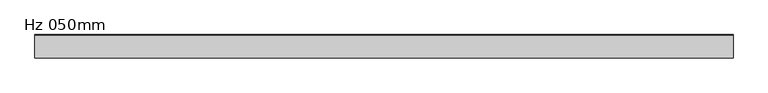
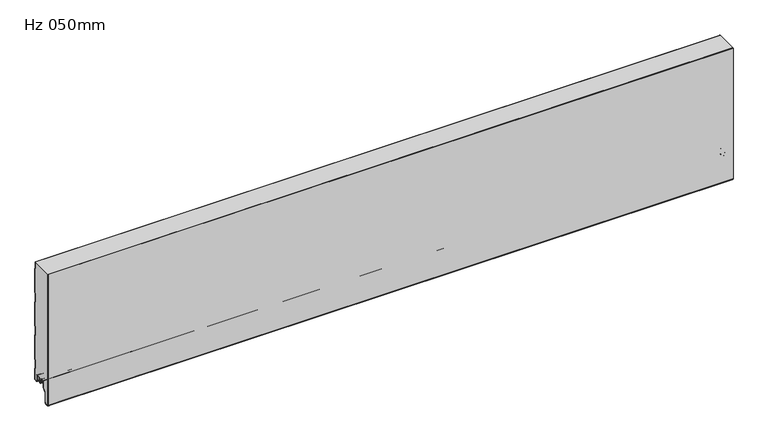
"""IFC4 building model written with IfcOpenShell, lengths in millimetres: plate geometry, KIP-MEX-KSS-1067-R19-CP-Hz-OP_SL : Hz 050mm."""

from ifc_helpers import new_model, si_unit, point, frame, frame_2d, origin, place, context, project, spatial, polyline, circle_curve, trimmed, segment, composite_curve, outline, extrude, source, transform, mapped, element, save
from ifc_brep_helpers import plane_surface, cylinder_surface, revolved_surface, advanced_brep


def hz_050mm_dce8ea4b(model_context):
    return source(origin(), model_context, "Body", "SolidModel", [
        advanced_brep(
        [(-740.0, -21.670875, 1.0316999), (-740.0, -20.5014003, 2.2328239), (-740.0, -20.5014003, 5.9912173), (-740.0, -21.8998791, 5.9912173), (-740.0, -21.8998791, 8.6903283), (-740.0, -25.2498744, 12.0403236), (-740.0, -29.6498656, 12.0403236), (-740.0, -32.9998609, 8.6903283), (-740.0, -32.9998609, -3.1205608), (-740.0, -33.4977778, -4.3226385), (-740.0, -38.9998489, -9.8247096), (-740.0, -38.9998489, -31.9198392), (-740.0, -41.2184509, -34.5765709), (-740.0, -46.2002718, -35.0125699), (-740.0, -48.9945967, -32.4521176), (-740.0, -49.0, 266.0), (-740.0, -2.2002391, 266.0), (-740.0, -2.2002391, 251.0192115), (-740.0, -1.0000084, 249.6335785), (-740.0, -1.0000084, 195.5801631), (-740.0, -2.2002391, 194.1945302), (-740.0, -2.2002391, 174.8193639), (-740.0, -1.0000084, 173.4337309), (-740.0, -1.0000084, 119.3803155), (-740.0, -2.2002391, 117.9946826), (-740.0, -2.2002391, 98.6195163), (-740.0, -1.0000084, 97.2338833), (-740.0, -1.0000084, 43.1804679), (-740.0, -2.2002391, 41.794835), (-740.0, -2.2002391, 22.4196687), (-740.0, -1.0, 21.034026), (-740.0, -1.0, -3.4662506), (-740.0, -5.2315473, -3.4662506), (-740.0, -7.0015415, -1.6962564), (-740.0, -7.0015415, 8.7237222), (-740.0, -10.3015374, 12.023718), (-740.0, -14.7015286, 12.023718), (-740.0, -18.0015243, 8.7237223), (-740.0, -18.0015243, 6.0315125), (-740.0, -19.0015188, 6.0315125), (-740.0, -19.0015188, 2.0313089), (-740.0, -18.0015275, 1.0313117), (-740.0, -19.0328392, 0.0), (-740.0, -20.6391751, 0.0), (740.0, -21.670875, 1.0316999), (740.0, -20.6391751, 0.0), (740.0, -19.0328392, 0.0), (740.0, -18.0015275, 1.0313117), (740.0, -19.0015188, 2.0313089), (740.0, -19.0015188, 6.0315125), (740.0, -18.0015243, 6.0315125), (740.0, -18.0015243, 8.7237223), (740.0, -14.7015286, 12.023718), (740.0, -10.3015374, 12.023718), (740.0, -7.0015415, 8.7237222), (740.0, -7.0015415, -1.6962564), (740.0, -5.2315473, -3.4662506), (740.0, -1.0, -3.4662506), (740.0, -1.0, 21.034026), (740.0, -2.2002391, 22.4196687), (740.0, -2.2002391, 41.794835), (740.0, -1.0000084, 43.1804679), (740.0, -1.0000084, 97.2338833), (740.0, -2.2002391, 98.6195163), (740.0, -2.2002391, 117.9946826), (740.0, -1.0000084, 119.3803155), (740.0, -1.0000084, 173.4337309), (740.0, -2.2002391, 174.8193639), (740.0, -2.2002391, 194.1945302), (740.0, -1.0000084, 195.5801631), (740.0, -1.0000084, 249.6335785), (740.0, -2.2002391, 251.0192115), (740.0, -2.2002391, 266.0), (740.0, -49.0, 266.0), (740.0, -49.0, -32.4521176), (740.0, -46.2002718, -35.0125699), (740.0, -41.2184509, -34.5765709), (740.0, -38.9998489, -31.9198392), (740.0, -38.9998489, -9.8247096), (740.0, -33.4977778, -4.3226385), (740.0, -32.9998609, -3.1205608), (740.0, -32.9998609, 8.6903283), (740.0, -29.6498656, 12.0403236), (740.0, -25.2498744, 12.0403236), (740.0, -21.8998791, 8.6903283), (740.0, -21.8998791, 5.9912173), (740.0, -20.5014003, 5.9912173), (740.0, -20.5014003, 2.2328239)],
        [
            (0, 1, circle_curve(frame((-740.0, -21.7013969, 2.2313092), z_axis=(1.0, 0.0, 0.0), x_axis=(0.0, 0.0, -1.0)), 1.1999976)),
            (1, 2),
            (2, 3),
            (3, 4),
            (4, 5, circle_curve(frame((-740.0, -25.2498744, 8.6903283), z_axis=(1.0, 0.0, 0.0), x_axis=(0.0, 0.0, -1.0)), 3.3499953)),
            (5, 6),
            (6, 7, circle_curve(frame((-740.0, -29.6498656, 8.6903283), z_axis=(1.0, 0.0, 0.0), x_axis=(0.0, 0.0, -1.0)), 3.3499953)),
            (7, 8),
            (8, 9, circle_curve(frame((-740.0, -34.6998555, -3.1205608), z_axis=(-1.0, 0.0, 0.0), x_axis=(0.0, 0.0, -1.0)), 1.6999946)),
            (9, 10),
            (10, 11),
            (11, 12, circle_curve(frame((-740.0, -41.6998415, -31.9198392), z_axis=(-1.0, 0.0, 0.0), x_axis=(0.0, 0.0, -1.0)), 2.6999926)),
            (12, 13),
            (13, 14, circle_curve(frame((-740.0, -46.4243575, -32.4521176), z_axis=(-1.0, 0.0, 0.0), x_axis=(0.0, 0.0, -1.0)), 2.5702393)),
            (14, 15),
            (15, 16),
            (16, 17),
            (17, 18),
            (18, 19),
            (19, 20),
            (20, 21),
            (21, 22),
            (22, 23),
            (23, 24),
            (24, 25),
            (25, 26),
            (26, 27),
            (27, 28),
            (28, 29),
            (29, 30),
            (30, 31),
            (31, 32),
            (32, 33, circle_curve(frame((-740.0, -5.2315473, -1.6962564), z_axis=(-1.0, 0.0, 0.0), x_axis=(0.0, 0.0, -1.0)), 1.7699942)),
            (33, 34),
            (34, 35, circle_curve(frame((-740.0, -10.3015374, 8.7237222), z_axis=(1.0, 0.0, 0.0), x_axis=(0.0, 0.0, -1.0)), 3.2999959)),
            (35, 36),
            (36, 37, circle_curve(frame((-740.0, -14.7015286, 8.7237223), z_axis=(1.0, 0.0, 0.0), x_axis=(0.0, 0.0, -1.0)), 3.2999957)),
            (37, 38),
            (38, 39),
            (39, 40),
            (40, 41, circle_curve(frame((-740.0, -18.0015216, 2.0313089), z_axis=(1.0, 0.0, 0.0), x_axis=(0.0, 0.0, -1.0)), 0.9999972)),
            (41, 42),
            (42, 43),
            (43, 0),
            (44, 45),
            (45, 46),
            (46, 47),
            (47, 48, circle_curve(frame((740.0, -18.0015216, 2.0313089), z_axis=(-1.0, 0.0, 0.0), x_axis=(0.0, 0.0, -1.0)), 0.9999972)),
            (48, 49),
            (49, 50),
            (50, 51),
            (51, 52, circle_curve(frame((740.0, -14.7015286, 8.7237223), z_axis=(-1.0, 0.0, 0.0), x_axis=(0.0, 0.0, -1.0)), 3.2999957)),
            (52, 53),
            (53, 54, circle_curve(frame((740.0, -10.3015374, 8.7237222), z_axis=(-1.0, 0.0, 0.0), x_axis=(0.0, 0.0, -1.0)), 3.2999959)),
            (54, 55),
            (55, 56, circle_curve(frame((740.0, -5.2315473, -1.6962564), z_axis=(1.0, 0.0, 0.0), x_axis=(0.0, 0.0, -1.0)), 1.7699942)),
            (56, 57),
            (57, 58),
            (58, 59),
            (59, 60),
            (60, 61),
            (61, 62),
            (62, 63),
            (63, 64),
            (64, 65),
            (65, 66),
            (66, 67),
            (67, 68),
            (68, 69),
            (69, 70),
            (70, 71),
            (71, 72),
            (72, 73),
            (73, 74),
            (74, 75, circle_curve(frame((740.0, -46.4243575, -32.4521176), z_axis=(1.0, 0.0, 0.0), x_axis=(0.0, 0.0, -1.0)), 2.5702393)),
            (75, 76),
            (76, 77, circle_curve(frame((740.0, -41.6998415, -31.9198392), z_axis=(1.0, 0.0, 0.0), x_axis=(0.0, 0.0, -1.0)), 2.6999926)),
            (77, 78),
            (78, 79),
            (79, 80, circle_curve(frame((740.0, -34.6998555, -3.1205608), z_axis=(1.0, 0.0, 0.0), x_axis=(0.0, 0.0, -1.0)), 1.6999946)),
            (80, 81),
            (81, 82, circle_curve(frame((740.0, -29.6498656, 8.6903283), z_axis=(-1.0, 0.0, 0.0), x_axis=(0.0, 0.0, -1.0)), 3.3499953)),
            (82, 83),
            (83, 84, circle_curve(frame((740.0, -25.2498744, 8.6903283), z_axis=(-1.0, 0.0, 0.0), x_axis=(0.0, 0.0, -1.0)), 3.3499953)),
            (84, 85),
            (85, 86),
            (86, 87),
            (87, 44, circle_curve(frame((740.0, -21.7013969, 2.2313092), z_axis=(-1.0, 0.0, 0.0), x_axis=(0.0, 0.0, -1.0)), 1.1999976)),
            (43, 45),
            (44, 0),
            (42, 46),
            (41, 47),
            (40, 48),
            (39, 49),
            (38, 50),
            (37, 51),
            (36, 52),
            (35, 53),
            (34, 54),
            (33, 55),
            (32, 56),
            (31, 57),
            (4, 84),
            (83, 5),
            (3, 85),
            (2, 86),
            (1, 87),
            (30, 58),
            (29, 59),
            (28, 60),
            (27, 61),
            (26, 62),
            (25, 63),
            (24, 64),
            (23, 65),
            (22, 66),
            (21, 67),
            (20, 68),
            (19, 69),
            (18, 70),
            (17, 71),
            (16, 72),
            (15, 73),
            (14, 74),
            (13, 75),
            (12, 76),
            (11, 77),
            (10, 78),
            (9, 79),
            (8, 80),
            (7, 81),
            (6, 82),
        ],
        [
            plane_surface(frame((-740.0, -49.0, 533.4), z_axis=(-1.0, 0.0, 0.0), x_axis=(0.0, -1.0, 0.0))),
            plane_surface(frame((740.0, -49.0, 533.4), z_axis=(1.0, 0.0, 0.0), x_axis=(0.0, -1.0, 0.0))),
            plane_surface(frame((-740.0, -21.670875, 1.0316999), z_axis=(0.0, -0.7071067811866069, -0.7071067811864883), x_axis=(1.0, 0.0, 0.0))),
            plane_surface(frame((-740.0, -20.6391751, 0.0), z_axis=(0.0, 0.0, -1.0), x_axis=(1.0, 0.0, 0.0))),
            plane_surface(frame((-740.0, -19.0328392, 0.0), z_axis=(0.0, 0.7071067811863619, -0.7071067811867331), x_axis=(1.0, 0.0, 0.0))),
            revolved_surface(polyline([(740.0, -18.0015216, 1.0313116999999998), (-740.0, -18.0015216, 1.0313116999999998)]), (-740.0, -18.0015216, 2.0313089), (1.0, 0.0, 0.0)),
            plane_surface(frame((-740.0, -19.0015188, 2.0313089), z_axis=(0.0, 1.0, 0.0), x_axis=(1.0, 0.0, 0.0))),
            plane_surface(frame((-740.0, -19.0015188, 6.0315125), z_axis=(0.0, 0.0, -1.0), x_axis=(1.0, 0.0, 0.0))),
            plane_surface(frame((-740.0, -18.0015243, 6.0315125), z_axis=(0.0, 1.0, 0.0), x_axis=(1.0, 0.0, 0.0))),
            revolved_surface(polyline([(740.0, -14.7015286, 5.4237266), (-740.0, -14.7015286, 5.4237266)]), (-740.0, -14.7015286, 8.7237223), (1.0, 0.0, 0.0)),
            plane_surface(frame((-740.0, -14.7015286, 12.023718), z_axis=(0.0, 0.0, -1.0), x_axis=(1.0, 0.0, 0.0))),
            revolved_surface(polyline([(740.0, -10.3015374, 5.423726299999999), (-740.0, -10.3015374, 5.423726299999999)]), (-740.0, -10.3015374, 8.7237222), (1.0, 0.0, 0.0)),
            plane_surface(frame((-740.0, -7.0015415, 8.7237222), z_axis=(0.0, -1.0, 0.0), x_axis=(1.0, 0.0, 0.0))),
            cylinder_surface(frame((-740.0, -5.2315473, -1.6962564), z_axis=(-1.0, 0.0, 0.0), x_axis=(0.0, 0.0, -1.0)), 1.7699942),
            plane_surface(frame((-740.0, -5.2315473, -3.4662506), z_axis=(0.0, 0.0, -1.0), x_axis=(1.0, 0.0, 0.0))),
            revolved_surface(polyline([(740.0, -25.2498744, 5.340332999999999), (-740.0, -25.2498744, 5.340332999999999)]), (-740.0, -25.2498744, 8.6903283), (1.0, 0.0, 0.0)),
            plane_surface(frame((-740.0, -21.8998791, 8.6903283), z_axis=(0.0, -1.0, 0.0), x_axis=(1.0, 0.0, 0.0))),
            plane_surface(frame((-740.0, -21.8998791, 5.9912173), z_axis=(0.0, 0.0, -1.0), x_axis=(1.0, 0.0, 0.0))),
            plane_surface(frame((-740.0, -20.5014003, 5.9912173), z_axis=(0.0, -1.0, 0.0), x_axis=(1.0, 0.0, 0.0))),
            revolved_surface(polyline([(740.0, -21.7013969, 1.0313116), (-740.0, -21.7013969, 1.0313116)]), (-740.0, -21.7013969, 2.2313092), (1.0, 0.0, 0.0)),
            plane_surface(frame((-740.0, -1.0, -3.4662506), z_axis=(0.0, 1.0, 0.0), x_axis=(1.0, 0.0, 0.0))),
            plane_surface(frame((-740.0, -1.0, 21.034026), z_axis=(0.0, 0.7558648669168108, 0.6547276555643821), x_axis=(1.0, 0.0, 0.0))),
            plane_surface(frame((-740.0, -2.2002391, 22.4196687), z_axis=(0.0, 1.0, 0.0), x_axis=(1.0, 0.0, 0.0))),
            plane_surface(frame((-740.0, -2.2002391, 41.794835), z_axis=(0.0, 0.7558648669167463, -0.6547276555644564), x_axis=(1.0, 0.0, 0.0))),
            plane_surface(frame((-740.0, -1.0000084, 43.1804679), z_axis=(0.0, 1.0, 0.0), x_axis=(1.0, 0.0, 0.0))),
            plane_surface(frame((-740.0, -1.0000084, 97.2338833), z_axis=(0.0, 0.7558648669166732, 0.6547276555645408), x_axis=(1.0, 0.0, 0.0))),
            plane_surface(frame((-740.0, -2.2002391, 98.6195163), z_axis=(0.0, 1.0, 0.0), x_axis=(1.0, 0.0, 0.0))),
            plane_surface(frame((-740.0, -2.2002391, 117.9946826), z_axis=(0.0, 0.7558648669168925, -0.6547276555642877), x_axis=(1.0, 0.0, 0.0))),
            plane_surface(frame((-740.0, -1.0000084, 119.3803155), z_axis=(0.0, 1.0, 0.0), x_axis=(1.0, 0.0, 0.0))),
            plane_surface(frame((-740.0, -1.0000084, 173.4337309), z_axis=(0.0, 0.7558648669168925, 0.6547276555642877), x_axis=(1.0, 0.0, 0.0))),
            plane_surface(frame((-740.0, -2.2002391, 174.8193639), z_axis=(0.0, 1.0, 0.0), x_axis=(1.0, 0.0, 0.0))),
            plane_surface(frame((-740.0, -2.2002391, 194.1945302), z_axis=(0.0, 0.7558648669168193, -0.6547276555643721), x_axis=(1.0, 0.0, 0.0))),
            plane_surface(frame((-740.0, -1.0000084, 195.5801631), z_axis=(0.0, 1.0, 0.0), x_axis=(1.0, 0.0, 0.0))),
            plane_surface(frame((-740.0, -1.0000084, 249.6335785), z_axis=(0.0, 0.7558648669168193, 0.6547276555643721), x_axis=(1.0, 0.0, 0.0))),
            plane_surface(frame((-740.0, -2.2002391, 251.0192115), z_axis=(0.0, 1.0, 0.0), x_axis=(1.0, 0.0, 0.0))),
            plane_surface(frame((740.0, 10.0, 266.0), z_axis=(0.0, 0.0, 1.0), x_axis=(-1.0, 0.0, 0.0))),
            plane_surface(frame((-740.0, -49.0, 1024.665622), z_axis=(0.0, -1.0, 0.0), x_axis=(1.0, 0.0, 0.0))),
            cylinder_surface(frame((-740.0, -46.4243575, -32.4521176), z_axis=(-1.0, 0.0, 0.0), x_axis=(0.0, 0.0, -1.0)), 2.5702393),
            plane_surface(frame((-740.0, -46.2002718, -35.0125699), z_axis=(0.0, 0.08718474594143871, -0.9961921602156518), x_axis=(1.0, 0.0, 0.0))),
            cylinder_surface(frame((-740.0, -41.6998415, -31.9198392), z_axis=(-1.0, 0.0, 0.0), x_axis=(0.0, 0.0, -1.0)), 2.6999926),
            plane_surface(frame((-740.0, -38.9998489, -31.9198392), z_axis=(0.0, 1.0, 0.0), x_axis=(1.0, 0.0, 0.0))),
            plane_surface(frame((-740.0, -38.9998489, -9.8247096), z_axis=(0.0, 0.7071067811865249, -0.7071067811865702), x_axis=(1.0, 0.0, 0.0))),
            cylinder_surface(frame((-740.0, -34.6998555, -3.1205608), z_axis=(-1.0, 0.0, 0.0), x_axis=(0.0, 0.0, -1.0)), 1.6999946),
            plane_surface(frame((-740.0, -32.9998609, -3.1205608), z_axis=(0.0, 1.0, 0.0), x_axis=(1.0, 0.0, 0.0))),
            revolved_surface(polyline([(740.0, -29.6498656, 5.340332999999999), (-740.0, -29.6498656, 5.340332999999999)]), (-740.0, -29.6498656, 8.6903283), (1.0, 0.0, 0.0)),
            plane_surface(frame((-740.0, -29.6498656, 12.0403236), z_axis=(0.0, 0.0, -1.0), x_axis=(1.0, 0.0, 0.0))),
        ],
        [
            (0, [[1, 2, 3, 4, 5, 6, 7, 8, 9, 10, 11, 12, 13, 14, 15, 16, 17, 18, 19, 20, 21, 22, 23, 24, 25, 26, 27, 28, 29, 30, 31, 32, 33, 34, 35, 36, 37, 38, 39, 40, 41, 42, 43, 44]]),
            (1, [[45, 46, 47, 48, 49, 50, 51, 52, 53, 54, 55, 56, 57, 58, 59, 60, 61, 62, 63, 64, 65, 66, 67, 68, 69, 70, 71, 72, 73, 74, 75, 76, 77, 78, 79, 80, 81, 82, 83, 84, 85, 86, 87, 88]]),
            (2, [[89, -45, 90, -44]]),
            (3, [[91, -46, -89, -43]]),
            (4, [[92, -47, -91, -42]]),
            (5, [[93, -48, -92, -41]]),
            (6, [[94, -49, -93, -40]]),
            (7, [[95, -50, -94, -39]]),
            (8, [[96, -51, -95, -38]]),
            (9, [[97, -52, -96, -37]]),
            (10, [[98, -53, -97, -36]]),
            (11, [[99, -54, -98, -35]]),
            (12, [[100, -55, -99, -34]]),
            (13, [[101, -56, -100, -33]]),
            (14, [[102, -57, -101, -32]]),
            (15, [[103, -84, 104, -5]]),
            (16, [[105, -85, -103, -4]]),
            (17, [[106, -86, -105, -3]]),
            (18, [[107, -87, -106, -2]]),
            (19, [[-90, -88, -107, -1]]),
            (20, [[108, -58, -102, -31]]),
            (21, [[109, -59, -108, -30]]),
            (22, [[110, -60, -109, -29]]),
            (23, [[111, -61, -110, -28]]),
            (24, [[112, -62, -111, -27]]),
            (25, [[113, -63, -112, -26]]),
            (26, [[114, -64, -113, -25]]),
            (27, [[115, -65, -114, -24]]),
            (28, [[116, -66, -115, -23]]),
            (29, [[117, -67, -116, -22]]),
            (30, [[118, -68, -117, -21]]),
            (31, [[119, -69, -118, -20]]),
            (32, [[120, -70, -119, -19]]),
            (33, [[121, -71, -120, -18]]),
            (34, [[-17, 122, -72, -121]]),
            (35, [[123, -73, -122, -16]]),
            (36, [[-74, -123, -15, 124]]),
            (37, [[125, -75, -124, -14]]),
            (38, [[126, -76, -125, -13]]),
            (39, [[127, -77, -126, -12]]),
            (40, [[128, -78, -127, -11]]),
            (41, [[129, -79, -128, -10]]),
            (42, [[130, -80, -129, -9]]),
            (43, [[131, -81, -130, -8]]),
            (44, [[132, -82, -131, -7]]),
            (45, [[-104, -83, -132, -6]]),
        ],
    ),
        advanced_brep(
        [(-740.0, -17.0015159, 2.0313088), (-740.0, -18.0015191, 1.0313116), (-740.0, -19.0015105, 2.0313088), (-740.0, -19.0015105, 6.0315125), (-740.0, -18.0015159, 6.0315125), (-740.0, -18.0015159, 8.7237223), (-740.0, -14.7015202, 12.023718), (-740.0, -10.301529, 12.023718), (-740.0, -7.0015335, 8.7237225), (-740.0, -7.0015335, -1.6962564), (-740.0, -5.2315393, -3.4662506), (-740.0, -0.9999916, -3.4662506), (-740.0, -0.9999916, 21.034026), (-740.0, -2.2002307, 22.4196686), (-740.0, -2.2002307, 41.7948349), (-740.0, -1.0, 43.1804679), (-740.0, -1.0, 97.2338833), (-740.0, -2.2002307, 98.6195162), (-740.0, -2.2002307, 117.9946825), (-740.0, -1.0, 119.3803155), (-740.0, -1.0, 173.4337309), (-740.0, -2.2002307, 174.8193638), (-740.0, -2.2002307, 194.1945301), (-740.0, -1.0, 195.5801631), (-740.0, -1.0, 249.6335785), (-740.0, -2.2002307, 251.0192114), (-740.0, -2.2002307, 266.0), (-740.0, -1.2002307, 266.0), (-740.0, -1.2002307, 251.3920919), (-740.0, -0.3417885, 250.4010442), (-740.0, 0.0, 249.4844273), (-740.0, 0.0, 195.7293142), (-740.0, -0.3417885, 194.8126973), (-740.0, -1.2002307, 193.8216497), (-740.0, -1.2002307, 175.1922443), (-740.0, -0.3417885, 174.2011966), (-740.0, 0.0, 173.2845797), (-740.0, 0.0, 119.5294666), (-740.0, -0.3417885, 118.6128497), (-740.0, -1.2002307, 117.6218021), (-740.0, -1.2002307, 98.9923967), (-740.0, -0.3417885, 98.001349), (-740.0, 0.0, 97.0847321), (-740.0, 0.0, 43.329619), (-740.0, -0.3417885, 42.4130021), (-740.0, -1.2002307, 41.4219545), (-740.0, -1.2002307, 22.7925491), (-740.0, -0.3417885, 21.8015014), (-740.0, 0.0, 20.8847931), (-740.0, 8.4e-06, -3.0662545), (-740.0, -1.3999878, -4.4662506), (-740.0, -5.2315393, -4.4662506), (-740.0, -8.0015335, -1.6962564), (-740.0, -8.0015335, 8.7237225), (-740.0, -10.301529, 11.023718), (-740.0, -14.7015202, 11.023718), (-740.0, -17.0015159, 8.7237223), (740.0, -17.0015159, 2.0313088), (740.0, -17.0015159, 8.7237223), (740.0, -14.7015202, 11.023718), (740.0, -10.301529, 11.023718), (740.0, -8.0015335, 8.7237225), (740.0, -8.0015335, -1.6962564), (740.0, -5.2315393, -4.4662506), (740.0, -1.3999878, -4.4662506), (740.0, 8.4e-06, -3.0662545), (740.0, 8.4e-06, 20.8848845), (740.0, -0.3417885, 21.8015014), (740.0, -1.2002307, 22.7925491), (740.0, -1.2002307, 41.4219545), (740.0, -0.3417885, 42.4130021), (740.0, 0.0, 43.329619), (740.0, 0.0, 97.0847321), (740.0, -0.3417885, 98.001349), (740.0, -1.2002307, 98.9923967), (740.0, -1.2002307, 117.6218021), (740.0, -0.3417885, 118.6128497), (740.0, 0.0, 119.5294666), (740.0, 0.0, 173.2845797), (740.0, -0.3417885, 174.2011966), (740.0, -1.2002307, 175.1922443), (740.0, -1.2002307, 193.8216497), (740.0, -0.3417885, 194.8126973), (740.0, 0.0, 195.7293142), (740.0, 0.0, 249.4844273), (740.0, -0.3417885, 250.4010442), (740.0, -1.2002307, 251.3920919), (740.0, -1.2002307, 266.0), (740.0, -2.2002307, 266.0), (740.0, -2.2002307, 251.0192114), (740.0, -1.0, 249.6335785), (740.0, -1.0, 195.5801631), (740.0, -2.2002307, 194.1945301), (740.0, -2.2002307, 174.8193638), (740.0, -1.0, 173.4337309), (740.0, -1.0, 119.3803155), (740.0, -2.2002307, 117.9946825), (740.0, -2.2002307, 98.6195162), (740.0, -1.0, 97.2338833), (740.0, -1.0, 43.1804679), (740.0, -2.2002307, 41.7948349), (740.0, -2.2002307, 22.4196686), (740.0, -0.9999916, 21.034026), (740.0, -0.9999916, -3.4662506), (740.0, -5.2315393, -3.4662506), (740.0, -7.0015335, -1.6962564), (740.0, -7.0015335, 8.7237225), (740.0, -10.301529, 12.023718), (740.0, -14.7015202, 12.023718), (740.0, -18.0015159, 8.7237223), (740.0, -18.0015159, 6.0315125), (740.0, -19.0015105, 6.0315125), (740.0, -19.0015105, 2.0313088), (740.0, -18.0015192, 1.0313116)],
        [
            (0, 1, circle_curve(frame((-740.0, -18.0015132, 2.0313088), z_axis=(-1.0, 0.0, 0.0), x_axis=(0.0, 0.0, 1.0)), 0.9999973)),
            (1, 2, circle_curve(frame((-740.0, -18.0015133, 2.0313088), z_axis=(-1.0, 0.0, 0.0), x_axis=(0.0, 0.0, 1.0)), 0.9999972)),
            (2, 3),
            (3, 4),
            (4, 5),
            (5, 6, circle_curve(frame((-740.0, -14.7015202, 8.7237223), z_axis=(-1.0, 0.0, 0.0), x_axis=(0.0, 0.0, 1.0)), 3.2999957)),
            (6, 7),
            (7, 8, circle_curve(frame((-740.0, -10.301529, 8.7237225), z_axis=(-1.0, 0.0, 0.0), x_axis=(0.0, 0.0, 1.0)), 3.2999955)),
            (8, 9),
            (9, 10, circle_curve(frame((-740.0, -5.2315393, -1.6962564), z_axis=(1.0, 0.0, 0.0), x_axis=(0.0, 0.0, 1.0)), 1.7699942)),
            (10, 11),
            (11, 12),
            (12, 13),
            (13, 14),
            (14, 15),
            (15, 16),
            (16, 17),
            (17, 18),
            (18, 19),
            (19, 20),
            (20, 21),
            (21, 22),
            (22, 23),
            (23, 24),
            (24, 25),
            (25, 26),
            (26, 27),
            (27, 28),
            (28, 29),
            (29, 30, circle_curve(frame((-740.0, -1.3999972, 249.4844273), z_axis=(-1.0, 0.0, 0.0), x_axis=(0.0, 0.0, 1.0)), 1.3999972)),
            (30, 31),
            (31, 32, circle_curve(frame((-740.0, -1.3999972, 195.7293142), z_axis=(-1.0, 0.0, 0.0), x_axis=(0.0, 0.0, 1.0)), 1.3999972)),
            (32, 33),
            (33, 34),
            (34, 35),
            (35, 36, circle_curve(frame((-740.0, -1.3999972, 173.2845797), z_axis=(-1.0, 0.0, 0.0), x_axis=(0.0, 0.0, 1.0)), 1.3999972)),
            (36, 37),
            (37, 38, circle_curve(frame((-740.0, -1.3999972, 119.5294666), z_axis=(-1.0, 0.0, 0.0), x_axis=(0.0, 0.0, 1.0)), 1.3999972)),
            (38, 39),
            (39, 40),
            (40, 41),
            (41, 42, circle_curve(frame((-740.0, -1.3999972, 97.0847321), z_axis=(-1.0, 0.0, 0.0), x_axis=(0.0, 0.0, 1.0)), 1.3999972)),
            (42, 43),
            (43, 44, circle_curve(frame((-740.0, -1.3999972, 43.329619), z_axis=(-1.0, 0.0, 0.0), x_axis=(0.0, 0.0, 1.0)), 1.3999972)),
            (44, 45),
            (45, 46),
            (46, 47),
            (47, 48, circle_curve(frame((-740.0, -1.3999972, 20.8848845), z_axis=(-1.0, 0.0, 0.0), x_axis=(0.0, 0.0, 1.0)), 1.3999972)),
            (48, 49),
            (49, 50, circle_curve(frame((-740.0, -1.3999878, -3.0662545), z_axis=(-1.0, 0.0, 0.0), x_axis=(0.0, 0.0, 1.0)), 1.3999962)),
            (50, 51),
            (51, 52, circle_curve(frame((-740.0, -5.2315393, -1.6962564), z_axis=(-1.0, 0.0, 0.0), x_axis=(0.0, 0.0, 1.0)), 2.7699942)),
            (52, 53),
            (53, 54, circle_curve(frame((-740.0, -10.301529, 8.7237225), z_axis=(1.0, 0.0, 0.0), x_axis=(0.0, 0.0, 1.0)), 2.2999955)),
            (54, 55),
            (55, 56, circle_curve(frame((-740.0, -14.7015202, 8.7237223), z_axis=(1.0, 0.0, 0.0), x_axis=(0.0, 0.0, 1.0)), 2.2999957)),
            (56, 0),
            (57, 58),
            (58, 59, circle_curve(frame((740.0, -14.7015202, 8.7237223), z_axis=(-1.0, 0.0, 0.0), x_axis=(0.0, 0.0, 1.0)), 2.2999957)),
            (59, 60),
            (60, 61, circle_curve(frame((740.0, -10.301529, 8.7237225), z_axis=(-1.0, 0.0, 0.0), x_axis=(0.0, 0.0, 1.0)), 2.2999955)),
            (61, 62),
            (62, 63, circle_curve(frame((740.0, -5.2315393, -1.6962564), z_axis=(1.0, 0.0, 0.0), x_axis=(0.0, 0.0, 1.0)), 2.7699942)),
            (63, 64),
            (64, 65, circle_curve(frame((740.0, -1.3999878, -3.0662545), z_axis=(1.0, 0.0, 0.0), x_axis=(0.0, 0.0, 1.0)), 1.3999962)),
            (65, 66),
            (66, 67, circle_curve(frame((740.0, -1.3999972, 20.8848845), z_axis=(1.0, 0.0, 0.0), x_axis=(0.0, 0.0, 1.0)), 1.3999972)),
            (67, 68),
            (68, 69),
            (69, 70),
            (70, 71, circle_curve(frame((740.0, -1.3999972, 43.329619), z_axis=(1.0, 0.0, 0.0), x_axis=(0.0, 0.0, 1.0)), 1.3999972)),
            (71, 72),
            (72, 73, circle_curve(frame((740.0, -1.3999972, 97.0847321), z_axis=(1.0, 0.0, 0.0), x_axis=(0.0, 0.0, 1.0)), 1.3999972)),
            (73, 74),
            (74, 75),
            (75, 76),
            (76, 77, circle_curve(frame((740.0, -1.3999972, 119.5294666), z_axis=(1.0, 0.0, 0.0), x_axis=(0.0, 0.0, 1.0)), 1.3999972)),
            (77, 78),
            (78, 79, circle_curve(frame((740.0, -1.3999972, 173.2845797), z_axis=(1.0, 0.0, 0.0), x_axis=(0.0, 0.0, 1.0)), 1.3999972)),
            (79, 80),
            (80, 81),
            (81, 82),
            (82, 83, circle_curve(frame((740.0, -1.3999972, 195.7293142), z_axis=(1.0, 0.0, 0.0), x_axis=(0.0, 0.0, 1.0)), 1.3999972)),
            (83, 84),
            (84, 85, circle_curve(frame((740.0, -1.3999972, 249.4844273), z_axis=(1.0, 0.0, 0.0), x_axis=(0.0, 0.0, 1.0)), 1.3999972)),
            (85, 86),
            (86, 87),
            (87, 88),
            (88, 89),
            (89, 90),
            (90, 91),
            (91, 92),
            (92, 93),
            (93, 94),
            (94, 95),
            (95, 96),
            (96, 97),
            (97, 98),
            (98, 99),
            (99, 100),
            (100, 101),
            (101, 102),
            (102, 103),
            (103, 104),
            (104, 105, circle_curve(frame((740.0, -5.2315393, -1.6962564), z_axis=(-1.0, 0.0, 0.0), x_axis=(0.0, 0.0, 1.0)), 1.7699942)),
            (105, 106),
            (106, 107, circle_curve(frame((740.0, -10.301529, 8.7237225), z_axis=(1.0, 0.0, 0.0), x_axis=(0.0, 0.0, 1.0)), 3.2999955)),
            (107, 108),
            (108, 109, circle_curve(frame((740.0, -14.7015202, 8.7237223), z_axis=(1.0, 0.0, 0.0), x_axis=(0.0, 0.0, 1.0)), 3.2999957)),
            (109, 110),
            (110, 111),
            (111, 112),
            (112, 113, circle_curve(frame((740.0, -18.0015133, 2.0313088), z_axis=(1.0, 0.0, 0.0), x_axis=(0.0, 0.0, 1.0)), 0.9999972)),
            (113, 57, circle_curve(frame((740.0, -18.0015132, 2.0313088), z_axis=(1.0, 0.0, 0.0), x_axis=(0.0, 0.0, 1.0)), 0.9999973)),
            (56, 58),
            (57, 0),
            (55, 59),
            (54, 60),
            (53, 61),
            (52, 62),
            (51, 63),
            (50, 64),
            (49, 65),
            (48, 66),
            (47, 67),
            (46, 68),
            (45, 69),
            (44, 70),
            (43, 71),
            (42, 72),
            (41, 73),
            (40, 74),
            (39, 75),
            (38, 76),
            (37, 77),
            (36, 78),
            (35, 79),
            (34, 80),
            (33, 81),
            (32, 82),
            (31, 83),
            (30, 84),
            (29, 85),
            (28, 86),
            (27, 87),
            (88, 26),
            (25, 89),
            (24, 90),
            (23, 91),
            (22, 92),
            (21, 93),
            (20, 94),
            (19, 95),
            (18, 96),
            (17, 97),
            (16, 98),
            (15, 99),
            (14, 100),
            (13, 101),
            (12, 102),
            (11, 103),
            (10, 104),
            (9, 105),
            (8, 106),
            (7, 107),
            (6, 108),
            (5, 109),
            (4, 110),
            (3, 111),
            (2, 112),
            (1, 113),
        ],
        [
            plane_surface(frame((-740.0, 0.0, 533.4), z_axis=(-1.0, 0.0, 0.0), x_axis=(0.0, 1.0, 0.0))),
            plane_surface(frame((740.0, 0.0, 533.4), z_axis=(1.0, 0.0, 0.0), x_axis=(0.0, 1.0, 0.0))),
            plane_surface(frame((-740.0, -17.0015159, 2.0313088), z_axis=(0.0, 1.0, 0.0), x_axis=(1.0, 0.0, 0.0))),
            revolved_surface(polyline([(740.0, -14.7015202, 11.023718), (-740.0, -14.7015202, 11.023718)]), (-740.0, -14.7015202, 8.7237223), (1.0, 0.0, 0.0)),
            plane_surface(frame((-740.0, -14.7015202, 11.023718), z_axis=(0.0, 0.0, -1.0), x_axis=(1.0, 0.0, 0.0))),
            revolved_surface(polyline([(740.0, -10.301529, 11.023717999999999), (-740.0, -10.301529, 11.023717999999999)]), (-740.0, -10.301529, 8.7237225), (1.0, 0.0, 0.0)),
            plane_surface(frame((-740.0, -8.0015335, 8.7237225), z_axis=(0.0, -1.0, 0.0), x_axis=(1.0, 0.0, 0.0))),
            cylinder_surface(frame((-740.0, -5.2315393, -1.6962564), z_axis=(-1.0, 0.0, 0.0), x_axis=(0.0, 0.0, 1.0)), 2.7699942),
            plane_surface(frame((-740.0, -5.2315393, -4.4662506), z_axis=(0.0, 0.0, -1.0), x_axis=(1.0, 0.0, 0.0))),
            cylinder_surface(frame((-740.0, -1.3999878, -3.0662545), z_axis=(-1.0, 0.0, 0.0), x_axis=(0.0, 0.0, 1.0)), 1.3999962),
            plane_surface(frame((-740.0, 8.4e-06, -3.0662545), z_axis=(0.0, 1.0, 0.0), x_axis=(1.0, 0.0, 0.0))),
            cylinder_surface(frame((-740.0, -1.3999972, 20.8848845), z_axis=(-1.0, 0.0, 0.0), x_axis=(0.0, 0.0, 1.0)), 1.3999972),
            plane_surface(frame((-740.0, -0.3417885, 21.8015014), z_axis=(0.0, 0.755864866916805, 0.6547276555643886), x_axis=(1.0, 0.0, 0.0))),
            plane_surface(frame((-740.0, -1.2002307, 32.1072518), z_axis=(0.0, 1.0, 0.0), x_axis=(1.0, 0.0, 0.0))),
            plane_surface(frame((-740.0, -1.2002307, 41.4219545), z_axis=(0.0, 0.755864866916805, -0.6547276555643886), x_axis=(1.0, 0.0, 0.0))),
            cylinder_surface(frame((-740.0, -1.3999972, 43.329619), z_axis=(-1.0, 0.0, 0.0), x_axis=(0.0, 0.0, 1.0)), 1.3999972),
            plane_surface(frame((-740.0, 0.0, 43.329619), z_axis=(0.0, 1.0, 0.0), x_axis=(1.0, 0.0, 0.0))),
            cylinder_surface(frame((-740.0, -1.3999972, 97.0847321), z_axis=(-1.0, 0.0, 0.0), x_axis=(0.0, 0.0, 1.0)), 1.3999972),
            plane_surface(frame((-740.0, -0.3417885, 98.001349), z_axis=(0.0, 0.755864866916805, 0.6547276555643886), x_axis=(1.0, 0.0, 0.0))),
            plane_surface(frame((-740.0, -1.2002307, 108.3070994), z_axis=(0.0, 1.0, 0.0), x_axis=(1.0, 0.0, 0.0))),
            plane_surface(frame((-740.0, -1.2002307, 117.6218021), z_axis=(0.0, 0.755864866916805, -0.6547276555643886), x_axis=(1.0, 0.0, 0.0))),
            cylinder_surface(frame((-740.0, -1.3999972, 119.5294666), z_axis=(-1.0, 0.0, 0.0), x_axis=(0.0, 0.0, 1.0)), 1.3999972),
            plane_surface(frame((-740.0, 0.0, 119.5294666), z_axis=(0.0, 1.0, 0.0), x_axis=(1.0, 0.0, 0.0))),
            cylinder_surface(frame((-740.0, -1.3999972, 173.2845797), z_axis=(-1.0, 0.0, 0.0), x_axis=(0.0, 0.0, 1.0)), 1.3999972),
            plane_surface(frame((-740.0, -0.3417885, 174.2011966), z_axis=(0.0, 0.755864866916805, 0.6547276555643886), x_axis=(1.0, 0.0, 0.0))),
            plane_surface(frame((-740.0, -1.2002307, 184.506947), z_axis=(0.0, 1.0, 0.0), x_axis=(1.0, 0.0, 0.0))),
            plane_surface(frame((-740.0, -1.2002307, 193.8216497), z_axis=(0.0, 0.755864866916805, -0.6547276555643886), x_axis=(1.0, 0.0, 0.0))),
            cylinder_surface(frame((-740.0, -1.3999972, 195.7293142), z_axis=(-1.0, 0.0, 0.0), x_axis=(0.0, 0.0, 1.0)), 1.3999972),
            plane_surface(frame((-740.0, 0.0, 195.7293142), z_axis=(0.0, 1.0, 0.0), x_axis=(1.0, 0.0, 0.0))),
            cylinder_surface(frame((-740.0, -1.3999972, 249.4844273), z_axis=(-1.0, 0.0, 0.0), x_axis=(0.0, 0.0, 1.0)), 1.3999972),
            plane_surface(frame((-740.0, -0.3417885, 250.4010442), z_axis=(0.0, 0.755864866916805, 0.6547276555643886), x_axis=(1.0, 0.0, 0.0))),
            plane_surface(frame((-740.0, -1.2002307, 260.7067946), z_axis=(0.0, 1.0, 0.0), x_axis=(1.0, 0.0, 0.0))),
            plane_surface(frame((-740.0, -2.2002307, 270.3943777), z_axis=(0.0, -1.0, 0.0), x_axis=(1.0, 0.0, 0.0))),
            plane_surface(frame((-740.0, -2.2002307, 251.0192114), z_axis=(0.0, -0.755864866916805, -0.6547276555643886), x_axis=(1.0, 0.0, 0.0))),
            plane_surface(frame((-740.0, -1.0, 249.6335785), z_axis=(0.0, -1.0, 0.0), x_axis=(1.0, 0.0, 0.0))),
            plane_surface(frame((-740.0, -1.0, 195.5801631), z_axis=(0.0, -0.755864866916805, 0.6547276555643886), x_axis=(1.0, 0.0, 0.0))),
            plane_surface(frame((-740.0, -2.2002307, 194.1945301), z_axis=(0.0, -1.0, 0.0), x_axis=(1.0, 0.0, 0.0))),
            plane_surface(frame((-740.0, -2.2002307, 174.8193638), z_axis=(0.0, -0.755864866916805, -0.6547276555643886), x_axis=(1.0, 0.0, 0.0))),
            plane_surface(frame((-740.0, -1.0, 173.4337309), z_axis=(0.0, -1.0, 0.0), x_axis=(1.0, 0.0, 0.0))),
            plane_surface(frame((-740.0, -1.0, 119.3803155), z_axis=(0.0, -0.755864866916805, 0.6547276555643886), x_axis=(1.0, 0.0, 0.0))),
            plane_surface(frame((-740.0, -2.2002307, 117.9946825), z_axis=(0.0, -1.0, 0.0), x_axis=(1.0, 0.0, 0.0))),
            plane_surface(frame((-740.0, -2.2002307, 98.6195162), z_axis=(0.0, -0.755864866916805, -0.6547276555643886), x_axis=(1.0, 0.0, 0.0))),
            plane_surface(frame((-740.0, -1.0, 97.2338833), z_axis=(0.0, -1.0, 0.0), x_axis=(1.0, 0.0, 0.0))),
            plane_surface(frame((-740.0, -1.0, 43.1804679), z_axis=(0.0, -0.755864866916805, 0.6547276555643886), x_axis=(1.0, 0.0, 0.0))),
            plane_surface(frame((-740.0, -2.2002307, 41.7948349), z_axis=(0.0, -1.0, 0.0), x_axis=(1.0, 0.0, 0.0))),
            plane_surface(frame((-740.0, -2.2002307, 22.4196686), z_axis=(0.0, -0.755864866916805, -0.6547276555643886), x_axis=(1.0, 0.0, 0.0))),
            plane_surface(frame((-740.0, -0.9999916, 21.034026), z_axis=(0.0, -1.0, 0.0), x_axis=(1.0, 0.0, 0.0))),
            plane_surface(frame((-740.0, -0.9999916, -3.4662506), z_axis=(0.0, 0.0, 1.0), x_axis=(1.0, 0.0, 0.0))),
            revolved_surface(polyline([(740.0, -5.2315393, 0.07373779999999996), (-740.0, -5.2315393, 0.07373779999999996)]), (-740.0, -5.2315393, -1.6962564), (1.0, 0.0, 0.0)),
            plane_surface(frame((-740.0, -7.0015335, -1.6962564), z_axis=(0.0, 1.0, 0.0), x_axis=(1.0, 0.0, 0.0))),
            cylinder_surface(frame((-740.0, -10.301529, 8.7237225), z_axis=(-1.0, 0.0, 0.0), x_axis=(0.0, 0.0, 1.0)), 3.2999955),
            plane_surface(frame((-740.0, -10.301529, 12.023718), z_axis=(0.0, 0.0, 1.0), x_axis=(1.0, 0.0, 0.0))),
            cylinder_surface(frame((-740.0, -14.7015202, 8.7237223), z_axis=(-1.0, 0.0, 0.0), x_axis=(0.0, 0.0, 1.0)), 3.2999957),
            plane_surface(frame((-740.0, -18.0015159, 8.7237223), z_axis=(0.0, -1.0, 0.0), x_axis=(1.0, 0.0, 0.0))),
            plane_surface(frame((-740.0, -18.0015159, 6.0315125), z_axis=(0.0, 0.0, 1.0), x_axis=(1.0, 0.0, 0.0))),
            plane_surface(frame((-740.0, -19.0015105, 6.0315125), z_axis=(0.0, -1.0, 0.0), x_axis=(1.0, 0.0, 0.0))),
            cylinder_surface(frame((-740.0, -18.0015133, 2.0313088), z_axis=(-1.0, 0.0, 0.0), x_axis=(0.0, 0.0, 1.0)), 0.9999972),
            cylinder_surface(frame((-740.0, -18.0015132, 2.0313088), z_axis=(-1.0, 0.0, 0.0), x_axis=(0.0, 0.0, 1.0)), 0.9999973),
            plane_surface(frame((740.0, 10.0, 266.0), z_axis=(0.0, 0.0, 1.0), x_axis=(-1.0, 0.0, 0.0))),
        ],
        [
            (0, [[1, 2, 3, 4, 5, 6, 7, 8, 9, 10, 11, 12, 13, 14, 15, 16, 17, 18, 19, 20, 21, 22, 23, 24, 25, 26, 27, 28, 29, 30, 31, 32, 33, 34, 35, 36, 37, 38, 39, 40, 41, 42, 43, 44, 45, 46, 47, 48, 49, 50, 51, 52, 53, 54, 55, 56, 57]]),
            (1, [[58, 59, 60, 61, 62, 63, 64, 65, 66, 67, 68, 69, 70, 71, 72, 73, 74, 75, 76, 77, 78, 79, 80, 81, 82, 83, 84, 85, 86, 87, 88, 89, 90, 91, 92, 93, 94, 95, 96, 97, 98, 99, 100, 101, 102, 103, 104, 105, 106, 107, 108, 109, 110, 111, 112, 113, 114]]),
            (2, [[115, -58, 116, -57]]),
            (3, [[117, -59, -115, -56]]),
            (4, [[118, -60, -117, -55]]),
            (5, [[119, -61, -118, -54]]),
            (6, [[120, -62, -119, -53]]),
            (7, [[121, -63, -120, -52]]),
            (8, [[122, -64, -121, -51]]),
            (9, [[123, -65, -122, -50]]),
            (10, [[124, -66, -123, -49]]),
            (11, [[125, -67, -124, -48]]),
            (12, [[126, -68, -125, -47]]),
            (13, [[127, -69, -126, -46]]),
            (14, [[128, -70, -127, -45]]),
            (15, [[129, -71, -128, -44]]),
            (16, [[130, -72, -129, -43]]),
            (17, [[131, -73, -130, -42]]),
            (18, [[132, -74, -131, -41]]),
            (19, [[133, -75, -132, -40]]),
            (20, [[134, -76, -133, -39]]),
            (21, [[135, -77, -134, -38]]),
            (22, [[136, -78, -135, -37]]),
            (23, [[137, -79, -136, -36]]),
            (24, [[138, -80, -137, -35]]),
            (25, [[139, -81, -138, -34]]),
            (26, [[140, -82, -139, -33]]),
            (27, [[141, -83, -140, -32]]),
            (28, [[142, -84, -141, -31]]),
            (29, [[143, -85, -142, -30]]),
            (30, [[144, -86, -143, -29]]),
            (31, [[-28, 145, -87, -144]]),
            (32, [[-89, 146, -26, 147]]),
            (33, [[148, -90, -147, -25]]),
            (34, [[149, -91, -148, -24]]),
            (35, [[150, -92, -149, -23]]),
            (36, [[151, -93, -150, -22]]),
            (37, [[152, -94, -151, -21]]),
            (38, [[153, -95, -152, -20]]),
            (39, [[154, -96, -153, -19]]),
            (40, [[155, -97, -154, -18]]),
            (41, [[156, -98, -155, -17]]),
            (42, [[157, -99, -156, -16]]),
            (43, [[158, -100, -157, -15]]),
            (44, [[159, -101, -158, -14]]),
            (45, [[160, -102, -159, -13]]),
            (46, [[161, -103, -160, -12]]),
            (47, [[162, -104, -161, -11]]),
            (48, [[163, -105, -162, -10]]),
            (49, [[164, -106, -163, -9]]),
            (50, [[165, -107, -164, -8]]),
            (51, [[166, -108, -165, -7]]),
            (52, [[167, -109, -166, -6]]),
            (53, [[168, -110, -167, -5]]),
            (54, [[169, -111, -168, -4]]),
            (55, [[170, -112, -169, -3]]),
            (56, [[171, -113, -170, -2]]),
            (57, [[-116, -114, -171, -1]]),
            (58, [[-146, -88, -145, -27]]),
        ],
    ),
        extrude(outline(composite_curve([segment(trimmed(circle_curve(frame_2d((-46.4297607, -32.4521176)), 3.5702393), [point((-46.1184903, -36.008762))], [point((-50.0, -32.4521176))], False, "CARTESIAN"), True, "CONTINUOUS"), segment(polyline([(-50.0, -32.4521176), (-50.0, 266.0), (-48.9993606, 266.0), (-48.9993606, -32.509446)]), True, "CONTINUOUS"), segment(trimmed(circle_curve(frame_2d((-46.4297607, -32.4521176)), 2.5702393), [point((-48.9993606, -32.509446))], [point((-46.2056751, -35.0125699))], True, "CARTESIAN"), True, "CONTINUOUS"), segment(polyline([(-46.2056751, -35.0125699), (-41.2238542, -34.5765709)]), True, "CONTINUOUS"), segment(trimmed(circle_curve(frame_2d((-41.7052448, -31.9198392)), 2.6999926), [point((-41.2238542, -34.5765709))], [point((-39.0052522, -31.9198392))], True, "CARTESIAN"), True, "CONTINUOUS"), segment(polyline([(-39.0052522, -31.9198392), (-39.0052522, -9.8247096), (-33.5031811, -4.3226385)]), True, "CONTINUOUS"), segment(trimmed(circle_curve(frame_2d((-34.7052588, -3.1205608)), 1.6999946), [point((-33.5031811, -4.3226385))], [point((-33.0052642, -3.1205608))], True, "CARTESIAN"), True, "CONTINUOUS"), segment(polyline([(-33.0052642, -3.1205608), (-33.0052642, 8.6903283)]), True, "CONTINUOUS"), segment(trimmed(circle_curve(frame_2d((-29.6552689, 8.6903283)), 3.3499953), [point((-33.0052642, 8.6903283))], [point((-29.6552689, 12.0403236))], False, "CARTESIAN"), True, "CONTINUOUS"), segment(polyline([(-29.6552689, 12.0403236), (-25.2552777, 12.0403236)]), True, "CONTINUOUS"), segment(trimmed(circle_curve(frame_2d((-25.2552777, 8.6903283)), 3.3499953), [point((-25.2552777, 12.0403236))], [point((-21.9052824, 8.6903283))], False, "CARTESIAN"), True, "CONTINUOUS"), segment(polyline([(-21.9052824, 8.6903283), (-21.9052824, 5.9912173), (-20.5068035, 5.9912173), (-20.5068035, 2.2328239)]), True, "CONTINUOUS"), segment(trimmed(circle_curve(frame_2d((-21.7068002, 2.2313092)), 1.1999976), [point((-20.5068035, 2.2328239))], [point((-21.6762782, 1.0316999))], False, "CARTESIAN"), True, "CONTINUOUS"), segment(trimmed(circle_curve(frame_2d((-21.7068002, 2.2313092)), 1.1999976), [point((-21.6762782, 1.0316999))], [point((-22.9052824, 2.1710221))], False, "CARTESIAN"), True, "CONTINUOUS"), segment(polyline([(-22.9052824, 2.1710221), (-22.9052824, 8.6903283)]), True, "CONTINUOUS"), segment(trimmed(circle_curve(frame_2d((-25.2552777, 8.6903283)), 2.3499953), [point((-22.9052824, 8.6903283))], [point((-25.2552777, 11.0403236))], True, "CARTESIAN"), True, "CONTINUOUS"), segment(polyline([(-25.2552777, 11.0403236), (-29.6552689, 11.0403236)]), True, "CONTINUOUS"), segment(trimmed(circle_curve(frame_2d((-29.6552689, 8.6903283)), 2.3499953), [point((-29.6552689, 11.0403236))], [point((-32.0052642, 8.6903283))], True, "CARTESIAN"), True, "CONTINUOUS"), segment(polyline([(-32.0052642, 8.6903283), (-32.0052642, -3.1205608)]), True, "CONTINUOUS"), segment(trimmed(circle_curve(frame_2d((-34.7052588, -3.1205608)), 2.6999946), [point((-32.0052642, -3.1205608))], [point((-32.7960743, -5.0297453))], False, "CARTESIAN"), True, "CONTINUOUS"), segment(polyline([(-32.7960743, -5.0297453), (-37.6244918, -9.8581627)]), True, "CONTINUOUS"), segment(trimmed(circle_curve(frame_2d((-36.7052548, -10.7773997)), 1.2999974), [point((-37.6244918, -9.8581627))], [point((-38.0052522, -10.7773997))], True, "CARTESIAN"), True, "CONTINUOUS"), segment(polyline([(-38.0052522, -10.7773997), (-38.0052522, -31.9198392)]), True, "CONTINUOUS"), segment(trimmed(circle_curve(frame_2d((-41.7052448, -31.9198392)), 3.6999926), [point((-38.0052522, -31.9198392))], [point((-41.0944437, -35.5690675))], False, "CARTESIAN"), True, "CONTINUOUS"), segment(polyline([(-41.0944437, -35.5690675), (-46.1184903, -36.008762)]), True, "CONTINUOUS")], self_intersect=False)), frame((-740.0, 0.0, 0.0), z_axis=(1.0, 0.0, 0.0), x_axis=(0.0, 1.0, 0.0)), (0.0, 0.0, 1.0), 1480.0),
    ])


if __name__ == "__main__":
    model = new_model("IFC4")
    model_context = context("Model", 3, world=origin())
    ifc_project = project(units=[si_unit("LENGTHUNIT", "METRE", prefix="MILLI")], contexts=[model_context])
    site = spatial("IfcSite", under=ifc_project)
    building = spatial("IfcBuilding", under=site)
    placement = place(None, origin())
    hz_050mm_shape = hz_050mm_dce8ea4b(model_context)
    element("IfcPlate", 1, ObjectType="KIP-MEX-KSS-1067-R19-CP-Hz-OP_SL : Hz 050mm", at=placement, inside=building, context=model_context, shape_type="MappedRepresentation", body=[
        mapped(hz_050mm_shape, transform((0.0, 0.0, 0.0), x_axis=(1.0, 0.0, 0.0), y_axis=(0.0, 1.0, 0.0), z_axis=(0.0, 0.0, 1.0))),
    ])
    save(model, "model.ifc")
